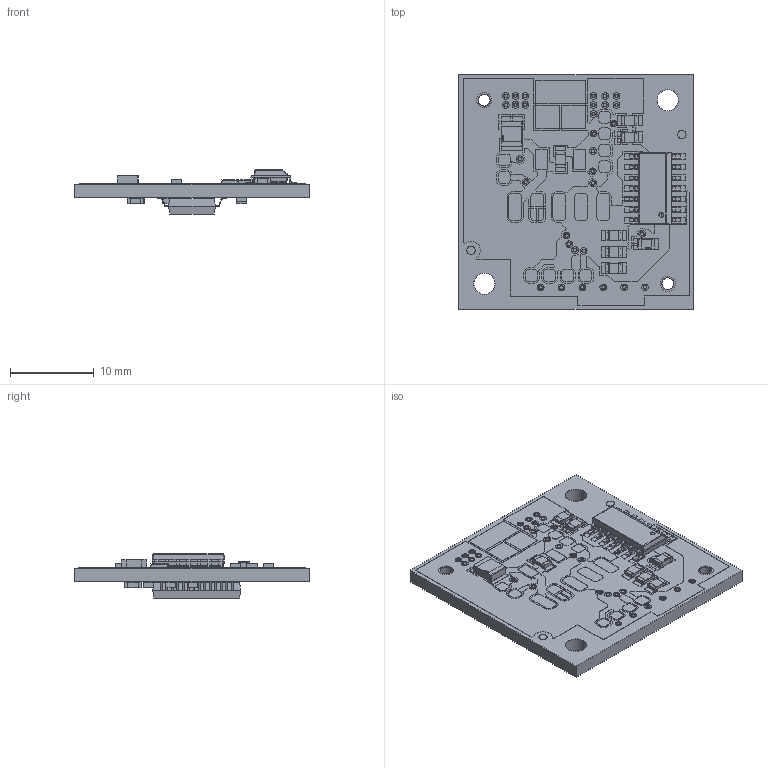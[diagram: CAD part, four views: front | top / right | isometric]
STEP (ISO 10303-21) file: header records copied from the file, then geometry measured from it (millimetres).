
FILE_DESCRIPTION (( 'STEP AP203' ), '1' );
FILE_NAME ('MODM300.STEP', '2019-12-12T07:33:48', ( '' ), ( '' ), 'SwSTEP 2.0', 'SolidWorks 2016', '' );
FILE_SCHEMA (( 'CONFIG_CONTROL_DESIGN' ));
Products named in the file (1): MODM300
Bounding box: 28 x 28 x 5.27 mm (x, y, z)
Volume: 1464.8 mm3; surface area: 4179.5 mm2
Topology: 280 solids, 280 shells, 4712 faces, 11976 edges, 7821 vertices
Faces by surface type: plane 3239, cylinder 947, bspline 514, sphere 12
Entity records: 177351 total; most frequent: CARTESIAN_POINT 65878, ORIENTED_EDGE 23786, DIRECTION 20794, EDGE_CURVE 11893, VECTOR 9090, LINE 9090, VERTEX_POINT 7820, AXIS2_PLACEMENT_3D 5852
